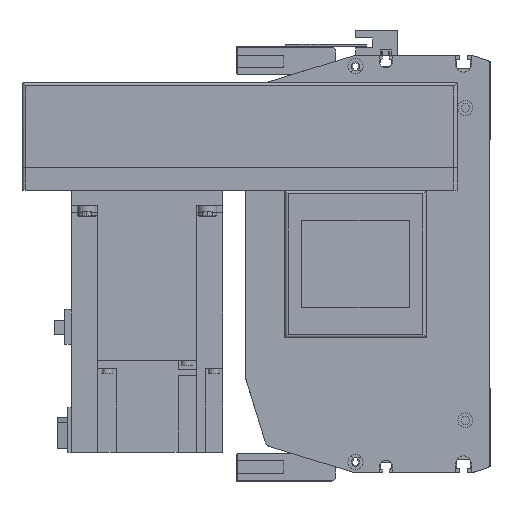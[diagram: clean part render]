
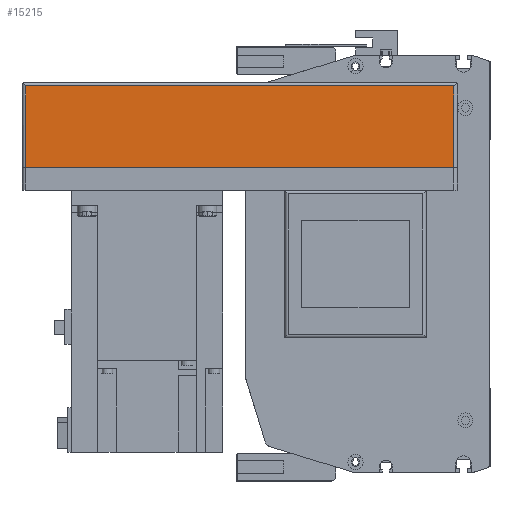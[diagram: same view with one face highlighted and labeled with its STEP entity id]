
A CAD part, left-side view. The second image highlights one B-rep face of the part: STEP entity #15215.
In plain terms, the highlighted planar face has unit normal (-1, 0, 0) as drawn and (0, 1, 0) by its records, which use the part's own axes.
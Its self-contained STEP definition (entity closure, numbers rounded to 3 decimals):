
#2580=ORIENTED_EDGE('',*,*,#6190,.F.);
#2581=ORIENTED_EDGE('',*,*,#6130,.T.);
#2582=ORIENTED_EDGE('',*,*,#6191,.F.);
#2583=ORIENTED_EDGE('',*,*,#6125,.F.);
#6125=EDGE_CURVE('',#8076,#8077,#9650,.T.);
#6130=EDGE_CURVE('',#8082,#8081,#9652,.T.);
#6190=EDGE_CURVE('',#8082,#8076,#9695,.T.);
#6191=EDGE_CURVE('',#8077,#8081,#9696,.T.);
#8076=VERTEX_POINT('',#23700);
#8077=VERTEX_POINT('',#23702);
#8081=VERTEX_POINT('',#23711);
#8082=VERTEX_POINT('',#23713);
#9650=LINE('',#23701,#11005);
#9652=LINE('',#23712,#11007);
#9695=LINE('',#23835,#11050);
#9696=LINE('',#23836,#11051);
#11005=VECTOR('',#18915,1000.);
#11007=VECTOR('',#18925,1000.);
#11050=VECTOR('',#19046,1000.);
#11051=VECTOR('',#19047,1000.);
#12214=EDGE_LOOP('',(#2580,#2581,#2582,#2583));
#13473=FACE_BOUND('',#12214,.T.);
#14570=PLANE('',#16340);
#15215=ADVANCED_FACE('',(#13473),#14570,.T.);
#16340=AXIS2_PLACEMENT_3D('',#23834,#19044,#19045);
#18915=DIRECTION('',(0.,0.,1.));
#18925=DIRECTION('',(0.,0.,1.));
#19044=DIRECTION('',(0.,1.,0.));
#19045=DIRECTION('',(0.,0.,1.));
#19046=DIRECTION('',(1.,0.,0.));
#19047=DIRECTION('',(-1.,0.,0.));
#23700=CARTESIAN_POINT('',(-2.,54.,-55.));
#23701=CARTESIAN_POINT('',(-2.,54.,-57.));
#23702=CARTESIAN_POINT('',(-2.,54.,-12.));
#23711=CARTESIAN_POINT('',(-228.,54.,-12.));
#23712=CARTESIAN_POINT('',(-228.,54.,-57.));
#23713=CARTESIAN_POINT('',(-228.,54.,-55.));
#23834=CARTESIAN_POINT('',(-2.,54.,-57.));
#23835=CARTESIAN_POINT('',(-230.,54.,-55.));
#23836=CARTESIAN_POINT('',(-2.,54.,-12.));
